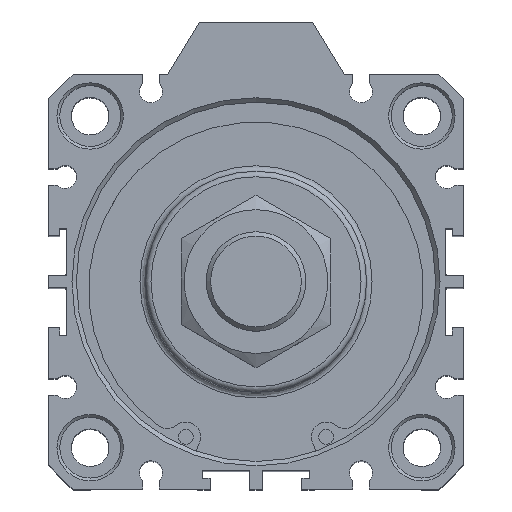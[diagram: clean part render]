
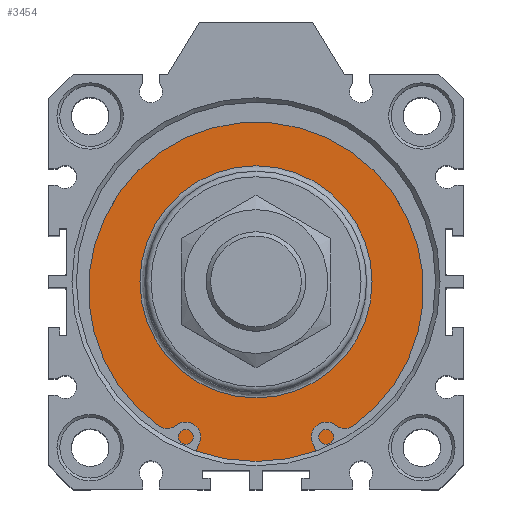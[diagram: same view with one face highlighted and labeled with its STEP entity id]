
A CAD part, top view. The second image highlights one B-rep face of the part: STEP entity #3454.
In plain terms, the highlighted planar face has unit normal (0, 0, 1).
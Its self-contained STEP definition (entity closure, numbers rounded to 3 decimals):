
#3403=CARTESIAN_POINT('',(2.99,22.555,87.3));
#3404=VERTEX_POINT('',#3403);
#3405=CARTESIAN_POINT('',(2.99,1.555,87.3));
#3406=DIRECTION('',(0.0,0.0,1.0));
#3407=DIRECTION('',(0.0,-1.0,0.0));
#3408=AXIS2_PLACEMENT_3D('',#3405,#3406,#3407);
#3409=CIRCLE('',#3408,21.);
#3410=EDGE_CURVE('',#3404,#3404,#3409,.T.);
#3435=CARTESIAN_POINT('',(2.99,27.805,87.3));
#3436=DIRECTION('',(0.0,0.0,1.0));
#3437=DIRECTION('',(1.0,0.0,0.0));
#3438=AXIS2_PLACEMENT_3D('',#3435,#3436,#3437);
#3439=PLANE('',#3438);
#3440=CARTESIAN_POINT('',(2.99,34.055,87.3));
#3441=VERTEX_POINT('',#3440);
#3442=CARTESIAN_POINT('',(2.99,1.555,87.3));
#3443=DIRECTION('',(0.0,0.0,-1.0));
#3444=DIRECTION('',(0.0,1.0,0.0));
#3445=AXIS2_PLACEMENT_3D('',#3442,#3443,#3444);
#3446=CIRCLE('',#3445,32.5);
#3447=EDGE_CURVE('',#3441,#3441,#3446,.T.);
#3448=ORIENTED_EDGE('',*,*,#3447,.F.);
#3449=EDGE_LOOP('',(#3448));
#3450=FACE_OUTER_BOUND('',#3449,.T.);
#3451=ORIENTED_EDGE('',*,*,#3410,.F.);
#3452=EDGE_LOOP('',(#3451));
#3453=FACE_BOUND('',#3452,.T.);
#3454=ADVANCED_FACE('',(#3450,#3453),#3439,.T.);
